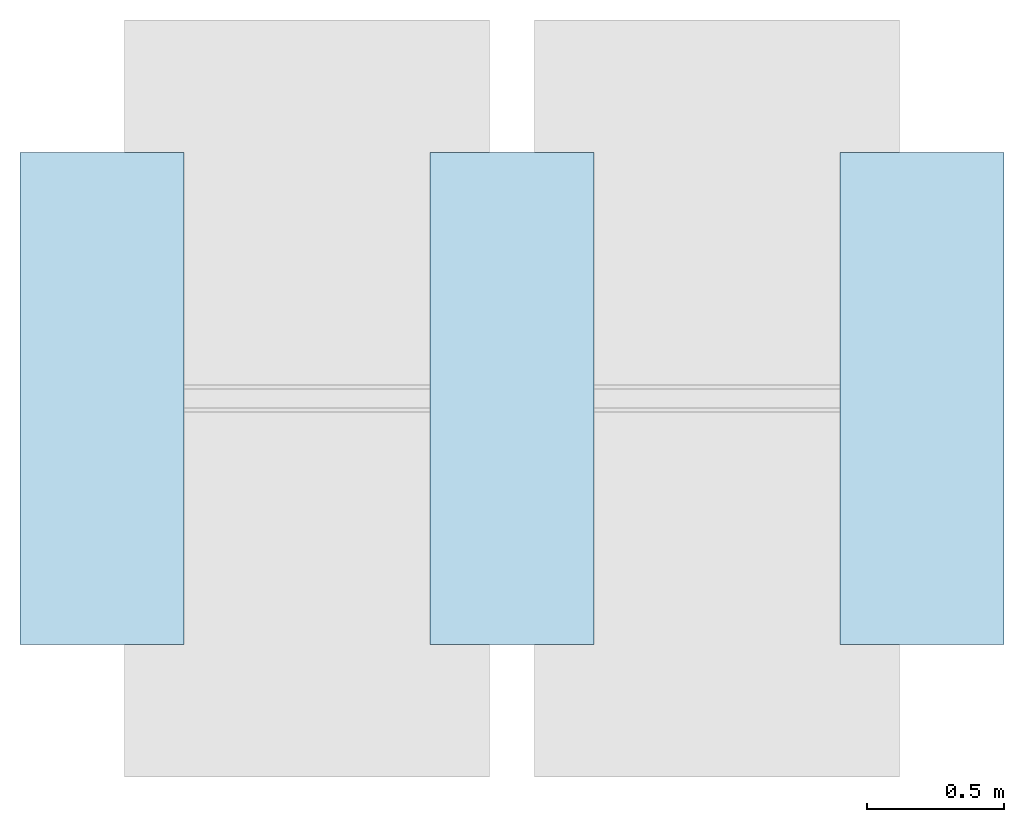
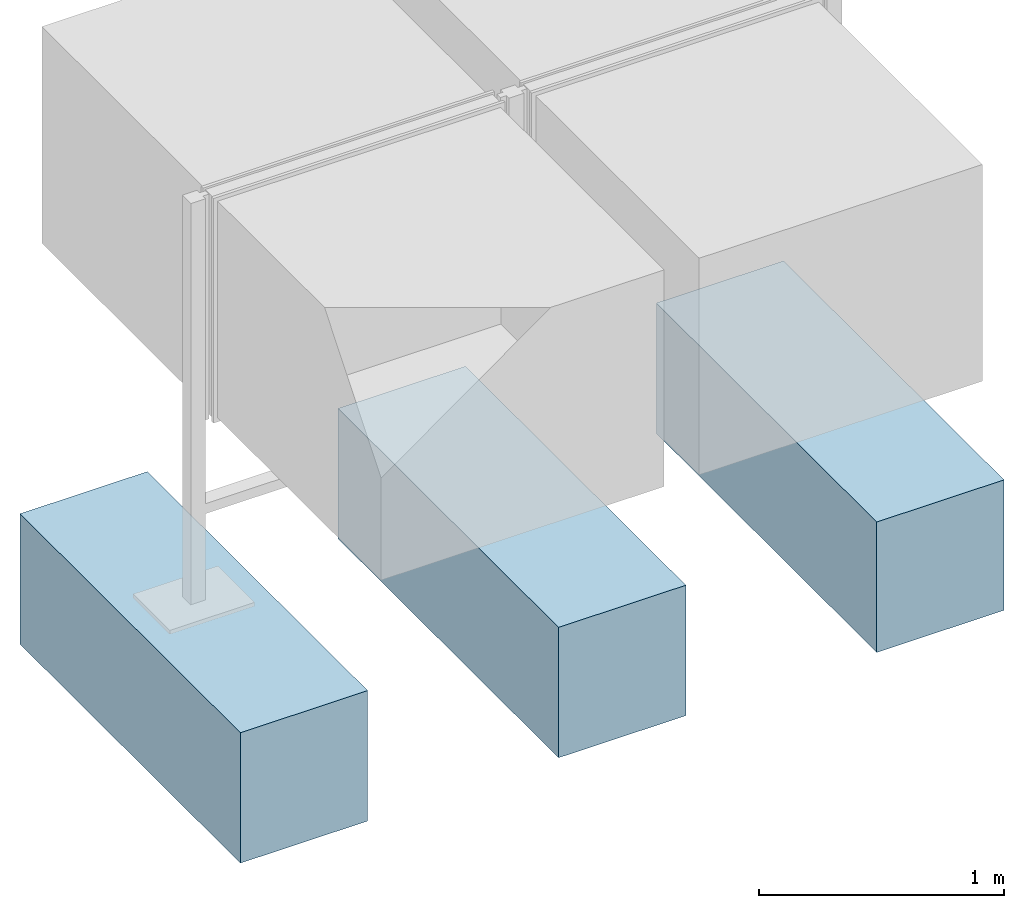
# One storey, incomplete: 3 slabs.
"""IFC4 building model written with IfcOpenShell, lengths in metres."""

from ifc_helpers import new_model, entity, si_unit, converted_unit, direction, frame, frame_2d, origin, origin_2d_with_axis, place, context, subcontext, project, spatial, rectangle, extrude, material, type_object, element, save


model = new_model("IFC4")

# Units and contexts
model_context = context("Model", 3, precision=1e-05, world=origin(), true_north=direction((6.123031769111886e-17, 1.0)))
body_context = subcontext(model_context, "Body", "Model", "MODEL_VIEW")
ifc_project = project(units=[si_unit("LENGTHUNIT", "METRE"), converted_unit("PLANEANGLEUNIT", "DEGREE", entity("IfcPlaneAngleMeasure", 0.017453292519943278), si_unit("PLANEANGLEUNIT", "RADIAN"), dimensions=[0, 0, 0, 0, 0, 0, 0]), si_unit("AREAUNIT", "SQUARE_METRE")], contexts=[model_context])

# Site, building, storey
site_placement = place(None, origin())
site = spatial("IfcSite", under=ifc_project, at=site_placement, Name="Default", CompositionType="ELEMENT")
building_placement = place(site_placement, origin())
building = spatial("IfcBuilding", under=site, at=building_placement, CompositionType="ELEMENT")
storey_placement = place(building_placement, origin())
storey = spatial("IfcBuildingStorey", under=building, at=storey_placement, Name="DB_Bezugshoehe_max_Bahnsteigkante", CompositionType="ELEMENT", Elevation=0.0)

# Slabs
ifc_material = material(Name="DB_Ortbeton", Category="DB_Beton")
slab_type = type_object("IfcSlabType", Name="DB_Vitrine_Fundament:DB_Vitrine_Fundament", PredefinedType="BASESLAB", material=ifc_material)
slab_1_placement = place(storey_placement, origin())
element("IfcSlab", 1, at=slab_1_placement, inside=storey, type_object=slab_type, Name="DB_Vitrine_Fundament:DB_Vitrine_Fundament", ObjectType="DB_Vitrine_Fundament:DB_Vitrine_Fundament", PredefinedType="BASESLAB", context=body_context, shape_type="SweptSolid", body=[
    extrude(rectangle(XDim=1.8, YDim=0.5999999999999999, at=origin_2d_with_axis()), frame((-0.0006257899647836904, 0.0, 0.04999999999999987), z_axis=(0.0, 0.0, 1.0), x_axis=(0.0, 1.0, 0.0)), (0.0, 0.0, 1.0), 0.5999999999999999),
    extrude(rectangle(XDim=0.5999999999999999, YDim=1.7999999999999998, at=origin_2d_with_axis()), frame((-0.0006257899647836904, 0.0, 0.0), z_axis=(0.0, 0.0, 1.0), x_axis=(-1.0, 0.0, 0.0)), (0.0, 0.0, 1.0), 0.04999999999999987),
])
slab_2_placement = place(storey_placement, origin())
element("IfcSlab", 2, at=slab_2_placement, inside=storey, type_object=slab_type, Name="DB_Vitrine_Fundament:DB_Vitrine_Fundament", ObjectType="DB_Vitrine_Fundament:DB_Vitrine_Fundament", PredefinedType="BASESLAB", context=body_context, shape_type="SweptSolid", body=[
    extrude(rectangle(XDim=1.8, YDim=0.5999999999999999, at=frame_2d((0.0, -8.326672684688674e-17), x_axis=(1.0, 0.0))), frame((1.4993742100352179, 0.0, 0.04999999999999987), z_axis=(0.0, 0.0, 1.0), x_axis=(0.0, 1.0, 0.0)), (0.0, 0.0, 1.0), 0.5999999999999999),
    extrude(rectangle(XDim=0.6000000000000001, YDim=1.7999999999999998, at=origin_2d_with_axis()), frame((1.4993742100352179, 0.0, 0.0), z_axis=(0.0, 0.0, 1.0), x_axis=(-1.0, 0.0, 0.0)), (0.0, 0.0, 1.0), 0.04999999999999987),
])
slab_3_placement = place(storey_placement, origin())
element("IfcSlab", 3, at=slab_3_placement, inside=storey, type_object=slab_type, Name="DB_Vitrine_Fundament:DB_Vitrine_Fundament", ObjectType="DB_Vitrine_Fundament:DB_Vitrine_Fundament", PredefinedType="BASESLAB", context=body_context, shape_type="SweptSolid", body=[
    extrude(rectangle(XDim=1.8, YDim=0.6000000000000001, at=origin_2d_with_axis()), frame((2.9993742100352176, 0.0, 0.04999999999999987), z_axis=(0.0, 0.0, 1.0), x_axis=(0.0, 1.0, 0.0)), (0.0, 0.0, 1.0), 0.5999999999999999),
    extrude(rectangle(XDim=0.6000000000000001, YDim=1.7999999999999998, at=origin_2d_with_axis()), frame((2.9993742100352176, 0.0, 0.0), z_axis=(0.0, 0.0, 1.0), x_axis=(-1.0, 0.0, 0.0)), (0.0, 0.0, 1.0), 0.04999999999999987),
])

save(model, "model.ifc")
